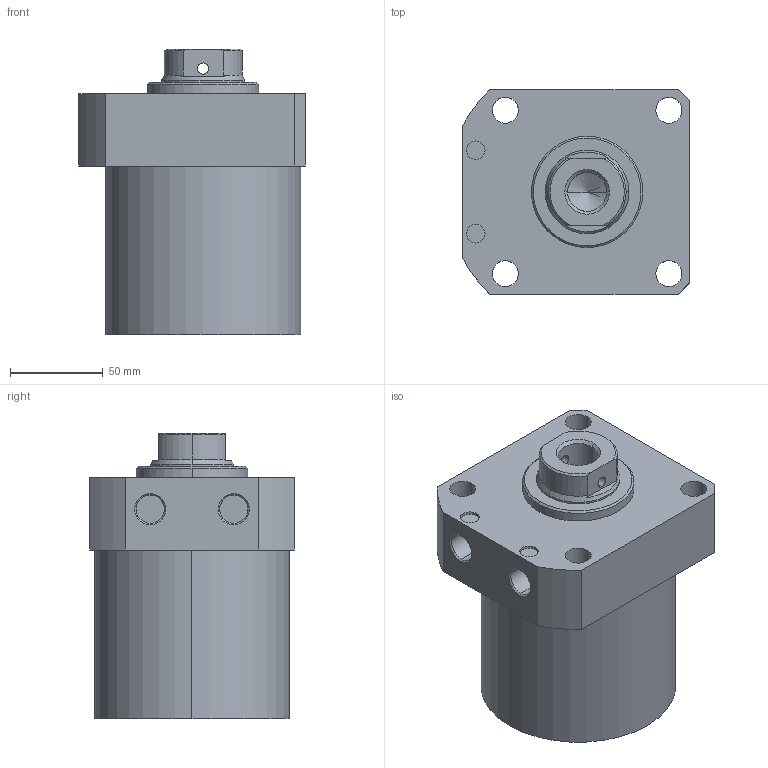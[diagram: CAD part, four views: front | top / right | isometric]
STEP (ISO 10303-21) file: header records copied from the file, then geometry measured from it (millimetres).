
FILE_DESCRIPTION (( 'STEP AP203' ), '1' );
FILE_NAME ('CLLR-105CB-070.STEP', '2019-12-19T01:46:28', ( '' ), ( '' ), 'SwSTEP 2.0', 'SolidWorks 2015', '' );
FILE_SCHEMA (( 'CONFIG_CONTROL_DESIGN' ));
Length unit declared in the file: millimetre
Products named in the file (1): CLLR-105CB-070
Bounding box: 122 x 110 x 154 mm (x, y, z)
Volume: 1290047.8 mm3; surface area: 87972.9 mm2
Topology: 1 solids, 1 shells, 67 faces, 160 edges, 101 vertices
Faces by surface type: cylinder 33, plane 19, cone 15
Entity records: 2165 total; most frequent: CARTESIAN_POINT 471, DIRECTION 358, ORIENTED_EDGE 316, EDGE_CURVE 158, AXIS2_PLACEMENT_3D 144, VERTEX_POINT 101, EDGE_LOOP 87, CIRCLE 76
